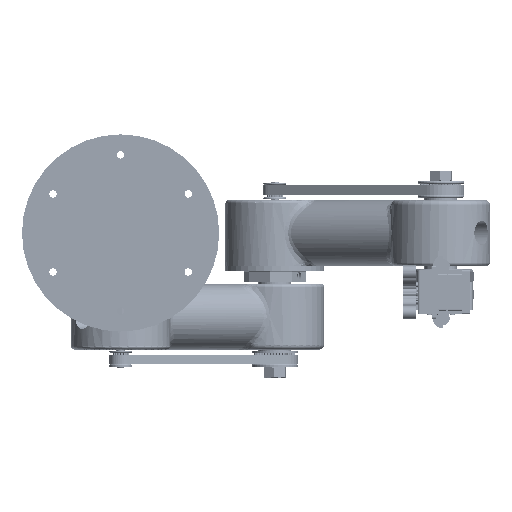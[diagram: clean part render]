
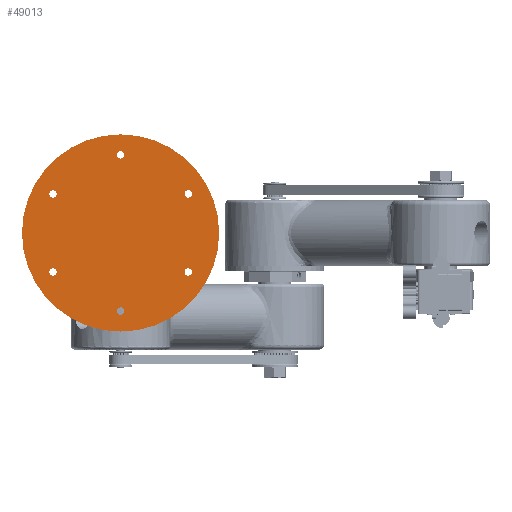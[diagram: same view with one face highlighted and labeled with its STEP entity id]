
A CAD part, front view. The second image highlights one B-rep face of the part: STEP entity #49013.
In plain terms, the highlighted planar face has unit normal (0, -1, 0).
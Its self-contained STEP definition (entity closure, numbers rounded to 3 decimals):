
#11773=FACE_BOUND('',#14754,.T.);
#11774=FACE_BOUND('',#14755,.T.);
#11775=FACE_BOUND('',#14756,.T.);
#11776=FACE_BOUND('',#14757,.T.);
#11777=FACE_BOUND('',#14758,.T.);
#11778=FACE_BOUND('',#14759,.T.);
#12248=FACE_OUTER_BOUND('',#14753,.T.);
#14753=EDGE_LOOP('',(#32756));
#14754=EDGE_LOOP('',(#32757));
#14755=EDGE_LOOP('',(#32758));
#14756=EDGE_LOOP('',(#32759));
#14757=EDGE_LOOP('',(#32760));
#14758=EDGE_LOOP('',(#32761));
#14759=EDGE_LOOP('',(#32762));
#17607=CIRCLE('',#52390,2.25);
#17611=CIRCLE('',#52397,2.25);
#17615=CIRCLE('',#52404,2.25);
#17619=CIRCLE('',#52411,2.25);
#17623=CIRCLE('',#52418,2.25);
#17627=CIRCLE('',#52425,2.25);
#17660=CIRCLE('',#52474,60.);
#19432=VERTEX_POINT('',#69547);
#19436=VERTEX_POINT('',#69560);
#19440=VERTEX_POINT('',#69573);
#19444=VERTEX_POINT('',#69586);
#19448=VERTEX_POINT('',#69599);
#19452=VERTEX_POINT('',#69612);
#19501=VERTEX_POINT('',#70664);
#24916=EDGE_CURVE('',#19432,#19432,#17607,.T.);
#24922=EDGE_CURVE('',#19436,#19436,#17611,.T.);
#24928=EDGE_CURVE('',#19440,#19440,#17615,.T.);
#24934=EDGE_CURVE('',#19444,#19444,#17619,.T.);
#24940=EDGE_CURVE('',#19448,#19448,#17623,.T.);
#24946=EDGE_CURVE('',#19452,#19452,#17627,.T.);
#25022=EDGE_CURVE('',#19501,#19501,#17660,.T.);
#32756=ORIENTED_EDGE('',*,*,#25022,.T.);
#32757=ORIENTED_EDGE('',*,*,#24916,.T.);
#32758=ORIENTED_EDGE('',*,*,#24922,.T.);
#32759=ORIENTED_EDGE('',*,*,#24928,.T.);
#32760=ORIENTED_EDGE('',*,*,#24934,.T.);
#32761=ORIENTED_EDGE('',*,*,#24940,.T.);
#32762=ORIENTED_EDGE('',*,*,#24946,.T.);
#47833=PLANE('',#52475);
#49013=ADVANCED_FACE('',(#12248,#11773,#11774,#11775,#11776,#11777,#11778),
#47833,.T.);
#52390=AXIS2_PLACEMENT_3D('',#69549,#56834,#56835);
#52397=AXIS2_PLACEMENT_3D('',#69562,#56850,#56851);
#52404=AXIS2_PLACEMENT_3D('',#69575,#56866,#56867);
#52411=AXIS2_PLACEMENT_3D('',#69588,#56882,#56883);
#52418=AXIS2_PLACEMENT_3D('',#69601,#56898,#56899);
#52425=AXIS2_PLACEMENT_3D('',#69614,#56914,#56915);
#52474=AXIS2_PLACEMENT_3D('',#70665,#57025,#57026);
#52475=AXIS2_PLACEMENT_3D('',#70667,#57028,#57029);
#56834=DIRECTION('center_axis',(0.,1.,0.));
#56835=DIRECTION('ref_axis',(0.5,0.,-0.866));
#56850=DIRECTION('center_axis',(0.,1.,0.));
#56851=DIRECTION('ref_axis',(-0.5,0.,-0.866));
#56866=DIRECTION('center_axis',(0.,1.,0.));
#56867=DIRECTION('ref_axis',(-1.,0.,0.));
#56882=DIRECTION('center_axis',(0.,1.,0.));
#56883=DIRECTION('ref_axis',(-0.5,0.,0.866));
#56898=DIRECTION('center_axis',(0.,1.,0.));
#56899=DIRECTION('ref_axis',(0.5,0.,0.866));
#56914=DIRECTION('center_axis',(0.,1.,0.));
#56915=DIRECTION('ref_axis',(1.,0.,0.));
#57025=DIRECTION('center_axis',(0.,-1.,0.));
#57026=DIRECTION('ref_axis',(1.,0.,0.));
#57028=DIRECTION('center_axis',(0.,-1.,0.));
#57029=DIRECTION('ref_axis',(0.,0.,-1.));
#69547=CARTESIAN_POINT('',(40.011,-60.,25.699));
#69549=CARTESIAN_POINT('Origin',(41.136,-60.,23.75));
#69560=CARTESIAN_POINT('',(42.261,-60.,-21.801));
#69562=CARTESIAN_POINT('Origin',(41.136,-60.,-23.75));
#69573=CARTESIAN_POINT('',(2.25,-60.,-47.5));
#69575=CARTESIAN_POINT('Origin',(0.,-60.,-47.5));
#69586=CARTESIAN_POINT('',(-40.011,-60.,-25.699));
#69588=CARTESIAN_POINT('Origin',(-41.136,-60.,-23.75));
#69599=CARTESIAN_POINT('',(-42.261,-60.,21.801));
#69601=CARTESIAN_POINT('Origin',(-41.136,-60.,23.75));
#69612=CARTESIAN_POINT('',(-2.25,-60.,47.5));
#69614=CARTESIAN_POINT('Origin',(0.,-60.,47.5));
#70664=CARTESIAN_POINT('',(-60.,-60.,0.));
#70665=CARTESIAN_POINT('Origin',(0.,-60.,0.));
#70667=CARTESIAN_POINT('Origin',(0.,-60.,0.));
